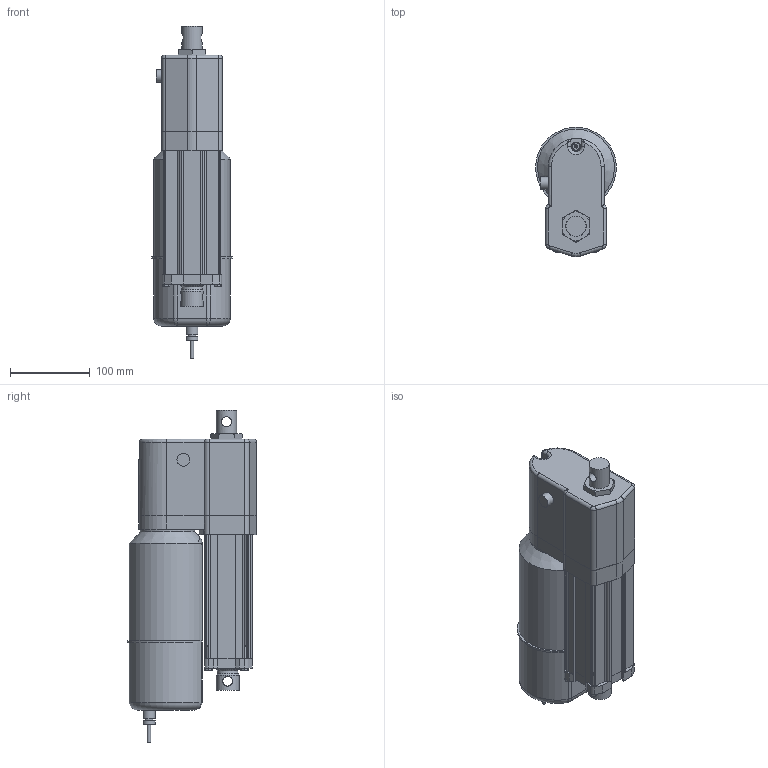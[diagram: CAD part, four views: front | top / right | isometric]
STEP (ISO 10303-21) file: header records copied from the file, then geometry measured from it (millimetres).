
FILE_DESCRIPTION (( 'STEP AP214' ), '1' );
FILE_NAME ('AA22-05B65M-05M0NPO-tollo.step', '2020-04-14T18:48:38', ( '' ), ( '' ), 'SwSTEP 2.0', 'SolidWorks 2010', '' );
FILE_SCHEMA (( 'AUTOMOTIVE_DESIGN' ));
Length unit declared in the file: millimetre
Products named in the file (8): Electrak-LA24-Motor-AA22-05B65M-05M0NPO-tollo_Electrak-LA24-Motor-AA22-05B65M-05M0NPO-tollo; Electrak-LA24-Rear-AA22-05B65M-05M0NPO-tollo_Electrak-LA24-Rear-AA22-05B65M-05M0NPO-tollo; Electrak-LA24-Tube-AA22-05B65M-05M0NPO-tollo_Electrak-LA24-Tube-AA22-05B65M-05M0NPO-tollo; Electrak-LA24-Rod-AA22-05B65M-05M0NPO-tollo_Electrak-LA24-Rod-AA22-05B65M-05M0NPO-tollo; Electrak-LA24-Plate-AA22-05B65M-05M0NPO-tollo_Electrak-LA24-Plate-AA22-05B65M-05M0NPO-tollo; Screw-MFX-H-M5_Screw-MFX-H-M5x24H; Screw-M6S-M5-AA22-05B65M-05M0NPO-tollo_Screw-M6S-M5-AA22-05B65M-05M0NPO-tollo; AA22-05B65M-05M0NPO-tollo
Assembly tree (10 placements, depth 2):
  AA22-05B65M-05M0NPO-tollo
    Screw-M6S-M5-AA22-05B65M-05M0NPO-tollo_Screw-M6S-M5-AA22-05B65M-05M0NPO-tollo  x4
    Electrak-LA24-Rod-AA22-05B65M-05M0NPO-tollo_Electrak-LA24-Rod-AA22-05B65M-05M0NPO-tollo
    Electrak-LA24-Tube-AA22-05B65M-05M0NPO-tollo_Electrak-LA24-Tube-AA22-05B65M-05M0NPO-tollo
    Screw-MFX-H-M5_Screw-MFX-H-M5x24H
    Electrak-LA24-Motor-AA22-05B65M-05M0NPO-tollo_Electrak-LA24-Motor-AA22-05B65M-05M0NPO-tollo
    Electrak-LA24-Plate-AA22-05B65M-05M0NPO-tollo_Electrak-LA24-Plate-AA22-05B65M-05M0NPO-tollo
    Electrak-LA24-Rear-AA22-05B65M-05M0NPO-tollo_Electrak-LA24-Rear-AA22-05B65M-05M0NPO-tollo
Bounding box: 100.99 x 162.5 x 415.3 mm (x, y, z)
Volume: 2970658.6 mm3; surface area: 282223.1 mm2
Topology: 10 solids, 10 shells, 355 faces, 890 edges, 575 vertices
Faces by surface type: plane 175, cylinder 129, cone 31, torus 15, bspline 3, sphere 2
Full cylindrical faces by diameter (mm): 4 x1, 4.126 x5, 4.8 x6, 5 x5, 5.6 x4, 7.878 x4, 9.3 x1, 10 x1, 12.2 x2, 15 x2, 16 x1, 25.4 x1, 28.6 x4, 47.625 x1, 68 x1
Entity records: 9673 total; most frequent: CARTESIAN_POINT 2403, DIRECTION 1454, ORIENTED_EDGE 1342, EDGE_CURVE 671, AXIS2_PLACEMENT_3D 531, VERTEX_POINT 462, VECTOR 392, LINE 392
